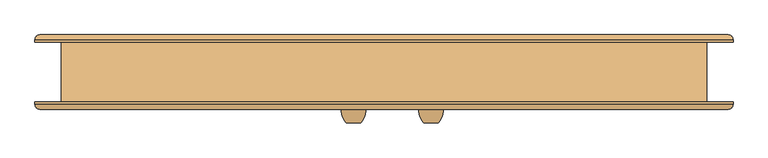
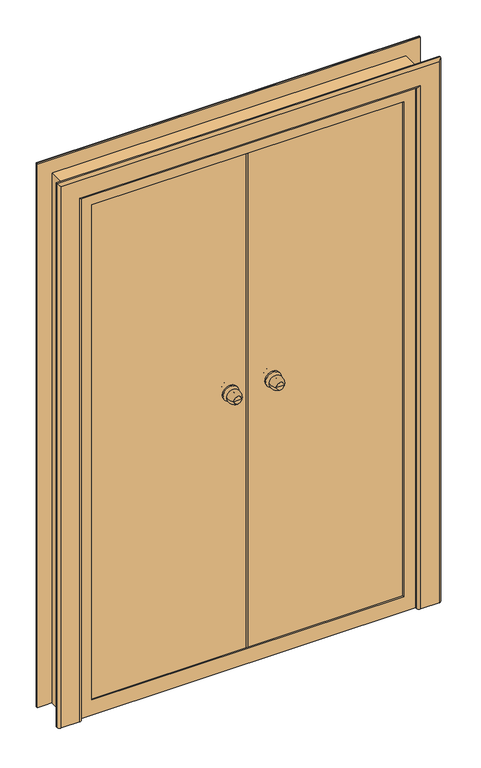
"""IFC4 building model written with IfcOpenShell, lengths in millimetres: door geometry, Наружная дверь 2-Навесная - Один проем наружу с порогом - 31173-2003 : ДСН ДКН М2 2100-1300 ГОСТ 31173-2003."""

import ifcopenshell
import ifcopenshell.guid

model = None  # the IFC model being written
_history = None  # IfcOwnerHistory: only IFC2X3 demands one
_inside = {}  # id of a spatial element -> (the spatial element, [elements in it])
_under = {}  # id of a project, library or spatial element -> (it, [spatial elements below it])
_declared = {}  # id of a project -> (the project, [libraries it declares])
_typed = {}  # id of a type object -> (the type object, [elements of that type])
_made_of = {}  # id of a material, layer set ... -> (it, [elements and type objects made of it])


def new_model(schema):
    """Start an empty IFC model of exactly this schema.

    Asked for "IFC4X3", IfcOpenShell would pick the latest addendum, in which some entities
    have other attributes; the version numbers below select the first issue.
    IFC2X3 requires an IfcOwnerHistory on every rooted entity: one is made here for all.
    """
    global model, _history
    if schema == "IFC4X3":
        model = ifcopenshell.file(schema_version=(4, 3, 0, 0))
    else:
        model = ifcopenshell.file(schema=schema)
    _inside.clear()
    _under.clear()
    _declared.clear()
    _typed.clear()
    _made_of.clear()
    _history = None
    if model.schema == "IFC2X3":
        org = make("IfcOrganization", Name="unknown")
        user = make(
            "IfcPersonAndOrganization",
            ThePerson=make("IfcPerson", FamilyName="unknown"),
            TheOrganization=org,
        )
        app = make(
            "IfcApplication",
            ApplicationDeveloper=org,
            Version="unknown",
            ApplicationFullName="unknown",
            ApplicationIdentifier="unknown",
        )
        _history = make(
            "IfcOwnerHistory",
            OwningUser=user,
            OwningApplication=app,
            ChangeAction="ADDED",
            CreationDate=0,
        )
    return model


def make(cls, **values):
    """One entity of the class cls with the attributes given. An attribute that is None is left unset."""
    return model.create_entity(
        cls, **{name: value for name, value in values.items() if value is not None}
    )


def rooted(cls, **values):
    """An entity with a GlobalId (a new one), such as an element, a storey or a relation."""
    return make(cls, GlobalId=ifcopenshell.guid.new(), OwnerHistory=_history, **values)


def si_unit(unit_type, name, prefix=None):
    """IfcSIUnit, for example si_unit("LENGTHUNIT", "METRE", prefix="MILLI")."""
    return make("IfcSIUnit", UnitType=unit_type, Prefix=prefix, Name=name)


def assignment(units):
    """IfcUnitAssignment: the units of a project."""
    return None if units is None else make("IfcUnitAssignment", Units=units)


def point(xyz):
    """IfcCartesianPoint."""
    return None if xyz is None else make("IfcCartesianPoint", Coordinates=xyz)


def direction(xyz):
    """IfcDirection."""
    return None if xyz is None else make("IfcDirection", DirectionRatios=xyz)


def frame(location, z_axis=None, x_axis=None):
    """IfcAxis2Placement3D, a coordinate frame: its origin and axes. An axis left out is left unset."""
    return make(
        "IfcAxis2Placement3D",
        Location=point(location),
        Axis=direction(z_axis),
        RefDirection=direction(x_axis),
    )


def origin():
    """The frame at (0, 0, 0) with its axes left unset."""
    return frame((0.0, 0.0, 0.0))


def place(relative_to, where):
    """IfcLocalPlacement: puts the frame where relative to a parent placement (None: the world)."""
    return make(
        "IfcLocalPlacement", PlacementRelTo=relative_to, RelativePlacement=where
    )


def context(
    kind, dimensions, precision=None, world=None, true_north=None, identifier=None
):
    """IfcGeometricRepresentationContext, for example the 3D "Model" context."""
    return make(
        "IfcGeometricRepresentationContext",
        ContextIdentifier=identifier,
        ContextType=kind,
        CoordinateSpaceDimension=dimensions,
        Precision=precision,
        WorldCoordinateSystem=world,
        TrueNorth=true_north,
    )


def project(units=None, contexts=None):
    """IfcProject with its units and contexts."""
    return rooted(
        "IfcProject",
        Name="project",
        RepresentationContexts=contexts,
        UnitsInContext=assignment(units),
    )


def spatial(cls, under=None, at=None, **own):
    """A site, building, storey or space (cls), placed at a placement, below another one or the project."""
    s = rooted(cls, ObjectPlacement=at, **own)
    if under is not None:
        _under.setdefault(under.id(), (under, []))[1].append(s)
    return s


def polyline(points):
    """IfcPolyline through the points."""
    return make("IfcPolyline", Points=[point(p) for p in points])


def circle_curve(where, radius):
    """IfcCircle in the frame where."""
    return make("IfcCircle", Position=where, Radius=radius)


def ellipse_curve(where, semi_axis1, semi_axis2):
    """IfcEllipse in the frame where."""
    return make(
        "IfcEllipse", Position=where, SemiAxis1=semi_axis1, SemiAxis2=semi_axis2
    )


def trimmed(basis, trim1, trim2, sense, master):
    """IfcTrimmedCurve: the piece of a basis curve between two trims."""
    return make(
        "IfcTrimmedCurve",
        BasisCurve=basis,
        Trim1=trim1,
        Trim2=trim2,
        SenseAgreement=sense,
        MasterRepresentation=master,
    )


def outline(outer, holes=None, kind="AREA"):
    """IfcArbitraryClosedProfileDef: a profile drawn as a closed curve; with holes, ...WithVoids."""
    if holes is None:
        return make("IfcArbitraryClosedProfileDef", ProfileType=kind, OuterCurve=outer)
    return make(
        "IfcArbitraryProfileDefWithVoids",
        ProfileType=kind,
        OuterCurve=outer,
        InnerCurves=holes,
    )


def extrude(swept, where, along, depth):
    """IfcExtrudedAreaSolid: the profile swept, set in the frame where, extruded along a direction by depth."""
    return make(
        "IfcExtrudedAreaSolid",
        SweptArea=swept,
        Position=where,
        ExtrudedDirection=direction(along),
        Depth=depth,
    )


def faces_of(points, faces, orient=None, outer=None):
    """IfcFace entities. A face is a list of loops; a loop is a list of indices into points, from 0.

    orient and outer hold one flag for each loop. By default every Orientation is true, the
    first loop of a face is its IfcFaceOuterBound and the others are IfcFaceBound.
    """
    made = []
    for i, loops in enumerate(faces):
        bounds = []
        for j, loop in enumerate(loops):
            is_outer = j == 0 if outer is None else outer[i][j]
            bounds.append(
                make(
                    "IfcFaceOuterBound" if is_outer else "IfcFaceBound",
                    Bound=make("IfcPolyLoop", Polygon=[points[k] for k in loop]),
                    Orientation=True if orient is None else orient[i][j],
                )
            )
        made.append(make("IfcFace", Bounds=bounds))
    return made


def faceted_brep(points, faces, orient=None, outer=None, voids=None):
    """IfcFacetedBrep: a solid bounded by flat faces; with voids (closed shells), ...WithVoids."""
    shared = [point(p) for p in points]
    hull = make("IfcClosedShell", CfsFaces=faces_of(shared, faces, orient, outer))
    if voids is None:
        return make("IfcFacetedBrep", Outer=hull)
    return make(
        "IfcFacetedBrepWithVoids",
        Outer=hull,
        Voids=[
            make(cls, CfsFaces=faces_of(shared, fs, o, b)) for cls, fs, o, b in voids
        ],
    )


def shape(context_of_items, identifier, shape_type, items):
    """IfcShapeRepresentation: the items that make up one representation, for example the "Body"."""
    return make(
        "IfcShapeRepresentation",
        ContextOfItems=context_of_items,
        RepresentationIdentifier=identifier,
        RepresentationType=shape_type,
        Items=items,
    )


def source(mapping_origin, context_of_items, identifier, shape_type, items):
    """IfcRepresentationMap: a shape defined once, which mapped items show again and again."""
    return make(
        "IfcRepresentationMap",
        MappingOrigin=mapping_origin,
        MappedRepresentation=shape(context_of_items, identifier, shape_type, items),
    )


def transform(
    local_origin,
    x_axis=None,
    y_axis=None,
    z_axis=None,
    scale=None,
    scale2=None,
    scale3=None,
    uniform=True,
):
    """IfcCartesianTransformationOperator3D, or its non-uniform kind. x_axis, y_axis, z_axis: its Axis1, 2, 3."""
    if uniform:
        return make(
            "IfcCartesianTransformationOperator3D",
            Axis1=direction(x_axis),
            Axis2=direction(y_axis),
            LocalOrigin=point(local_origin),
            Scale=scale,
            Axis3=direction(z_axis),
        )
    return make(
        "IfcCartesianTransformationOperator3DnonUniform",
        Axis1=direction(x_axis),
        Axis2=direction(y_axis),
        LocalOrigin=point(local_origin),
        Scale=scale,
        Axis3=direction(z_axis),
        Scale2=scale2,
        Scale3=scale3,
    )


def mapped(mapping_source, mapping_target):
    """IfcMappedItem: shows the shape of a source again, moved by a transform."""
    return make(
        "IfcMappedItem", MappingSource=mapping_source, MappingTarget=mapping_target
    )


def made_of(thing, what):
    """Note that an element or type object is made of a material, layer set ...; save() writes the relation."""
    if what is not None:
        _made_of.setdefault(what.id(), (what, []))[1].append(thing)
    return thing


def element(
    cls,
    number,
    at=None,
    inside=None,
    cuts=None,
    type_object=None,
    material=None,
    context=None,
    identifier="Body",
    shape_type=None,
    held_by="IfcProductDefinitionShape",
    body=None,
    shapes=None,
    **own,
):
    """One element of the class cls, such as IfcWall. Its Tag is "e" and its number.

    at: its placement. inside: the storey or other place that contains it. cuts: it is an
    opening in that element (IfcRelVoidsElement). A single representation is given by context,
    identifier, shape_type and body (its items); several are given by shapes. held_by: the class
    of the entity that holds the representations. save() writes the other relations.
    """
    e = rooted(cls, Tag="e%d" % number, ObjectPlacement=at, **own)
    if body is not None:
        shapes = [shape(context, identifier, shape_type, body)]
    if shapes is not None:
        e.Representation = make(held_by, Representations=shapes)
    if inside is not None:
        _inside.setdefault(inside.id(), (inside, []))[1].append(e)
    if cuts is not None:
        rooted(
            "IfcRelVoidsElement", RelatingBuildingElement=cuts, RelatedOpeningElement=e
        )
    if type_object is not None:
        _typed.setdefault(type_object.id(), (type_object, []))[1].append(e)
    return made_of(e, material)


def aggregate(whole, parts):
    """IfcRelAggregates: a whole, such as a stair, and the parts it consists of."""
    return rooted("IfcRelAggregates", RelatingObject=whole, RelatedObjects=parts)


def save(model, path):
    """Write the relations noted so far, then the file.

    IfcRelAggregates (storeys below a building ...), IfcRelContainedInSpatialStructure (elements
    in a storey), IfcRelDefinesByType, IfcRelAssociatesMaterial and IfcRelDeclares: one each for
    every whole, place, type object, material and project.
    """
    for whole, parts in _under.values():
        aggregate(whole, parts)
    for where, things in _inside.values():
        rooted(
            "IfcRelContainedInSpatialStructure",
            RelatedElements=things,
            RelatingStructure=where,
        )
    for kind, things in _typed.values():
        rooted("IfcRelDefinesByType", RelatedObjects=things, RelatingType=kind)
    for what, things in _made_of.values():
        rooted("IfcRelAssociatesMaterial", RelatedObjects=things, RelatingMaterial=what)
    for by, libraries in _declared.values():
        rooted("IfcRelDeclares", RelatingContext=by, RelatedDefinitions=libraries)
    model.write(path)


def plane_surface(at):
    """IfcPlane: the flat surface through the origin of the frame at, square to its z axis."""
    return make("IfcPlane", Position=at)


def cylinder_surface(at, radius):
    """IfcCylindricalSurface: all points at the distance radius from the z axis of the frame at."""
    return make("IfcCylindricalSurface", Position=at, Radius=radius)


def revolved_surface(curve, axis_point, axis_direction):
    """IfcSurfaceOfRevolution: the curve turned about the line through axis_point along axis_direction."""
    return make(
        "IfcSurfaceOfRevolution",
        SweptCurve=make("IfcArbitraryOpenProfileDef", ProfileType="CURVE", Curve=curve),
        AxisPosition=make("IfcAxis1Placement", Location=point(axis_point), Axis=direction(axis_direction)),
    )


def advanced_brep(points, edges, surfaces, faces):
    """IfcAdvancedBrep: a solid bounded by faces that lie on surfaces and meet in shared edges.

    An edge is (start, end): straight between two places in points (the first is 0);
    or (start, end, curve); or (start, end, curve, False) where it runs against its curve.
    A face is (place in surfaces, loops), or (place, loops, False) where it looks against
    its surface's normal. A loop lists edges by number (the first is 1), with a minus sign
    where the edge is run from its end to its start. The first loop is the outer one.
    """
    corners = [point(p) for p in points]
    vertices = [make("IfcVertexPoint", VertexGeometry=c) for c in corners]
    made = []
    for start, end, *more in edges:
        made.append(
            make(
                "IfcEdgeCurve",
                EdgeStart=vertices[start],
                EdgeEnd=vertices[end],
                EdgeGeometry=more[0] if more else make("IfcPolyline", Points=[corners[start], corners[end]]),
                SameSense=more[1] if len(more) > 1 else True,
            )
        )
    hull = []
    for where, loops, *sense in faces:
        bounds = []
        for j, loop in enumerate(loops):
            ring = [make("IfcOrientedEdge", EdgeElement=made[abs(k) - 1], Orientation=k > 0) for k in loop]
            bounds.append(
                make(
                    "IfcFaceOuterBound" if j == 0 else "IfcFaceBound",
                    Bound=make("IfcEdgeLoop", EdgeList=ring),
                    Orientation=True,
                )
            )
        hull.append(make("IfcAdvancedFace", Bounds=bounds, FaceSurface=surfaces[where], SameSense=sense[0] if sense else True))
    return make("IfcAdvancedBrep", Outer=make("IfcClosedShell", CfsFaces=hull))


def door_6cda5d05(model_context):
    return source(origin(), model_context, "Body", "SolidModel", [
        advanced_brep(
        [(113.0, -105.5, 1100.0), (83.0, -105.5, 1100.0), (98.0, -105.5, 1100.0), (123.0, -75.5, 1100.0), (73.0, -75.5, 1100.0), (116.0, -75.5, 1100.0), (80.0, -75.5, 1100.0), (108.0, -67.5, 1100.0), (88.0, -67.5, 1100.0), (108.0, -61.5, 1100.0), (88.0, -61.5, 1100.0), (68.0, -61.5, 1100.0), (128.0, -61.5, 1100.0), (68.0, -55.5, 1100.0), (128.0, -55.5, 1100.0)],
        [
            (0, 1, circle_curve(frame((98.0, -105.5, 1100.0), z_axis=(0.0, -1.0, 0.0), x_axis=(-1.0, 0.0, 0.0)), 15.0)),
            (1, 2),
            (2, 0),
            (1, 0, circle_curve(frame((98.0, -105.5, 1100.0), z_axis=(0.0, -1.0, 0.0), x_axis=(-1.0, 0.0, 0.0)), 15.0)),
            (0, 3, circle_curve(frame((88.3773735, -80.6257912, 1100.0), z_axis=(0.0, 0.0, 1.0), x_axis=(-1.0, 0.0, 0.0)), 35.0)),
            (3, 4, circle_curve(frame((98.0, -75.5, 1100.0), z_axis=(0.0, -1.0, 0.0), x_axis=(-1.0, 0.0, 0.0)), 25.0)),
            (4, 1, circle_curve(frame((107.6226265, -80.6257912, 1100.0), z_axis=(0.0, 0.0, 1.0), x_axis=(1.0, 0.0, 0.0)), 35.0)),
            (4, 3, circle_curve(frame((98.0, -75.5, 1100.0), z_axis=(0.0, -1.0, 0.0), x_axis=(-1.0, 0.0, 0.0)), 25.0)),
            (3, 5),
            (5, 6, circle_curve(frame((98.0, -75.5, 1100.0), z_axis=(0.0, -1.0, 0.0), x_axis=(-1.0, 0.0, 0.0)), 18.0)),
            (6, 4),
            (6, 5, circle_curve(frame((98.0, -75.5, 1100.0), z_axis=(0.0, -1.0, 0.0), x_axis=(-1.0, 0.0, 0.0)), 18.0)),
            (5, 7, circle_curve(frame((116.0, -67.5, 1100.0), z_axis=(0.0, 0.0, -1.0), x_axis=(-1.0, 0.0, 0.0)), 8.0)),
            (7, 8, circle_curve(frame((98.0, -67.5, 1100.0), z_axis=(0.0, -1.0, 0.0), x_axis=(-1.0, 0.0, 0.0)), 10.0)),
            (8, 6, circle_curve(frame((80.0, -67.5, 1100.0), z_axis=(0.0, 0.0, -1.0), x_axis=(1.0, 0.0, 0.0)), 8.0)),
            (8, 7, circle_curve(frame((98.0, -67.5, 1100.0), z_axis=(0.0, -1.0, 0.0), x_axis=(-1.0, 0.0, 0.0)), 10.0)),
            (7, 9),
            (9, 10, circle_curve(frame((98.0, -61.5, 1100.0), z_axis=(0.0, -1.0, 0.0), x_axis=(-1.0, 0.0, 0.0)), 10.0)),
            (10, 8),
            (10, 9, circle_curve(frame((98.0, -61.5, 1100.0), z_axis=(0.0, -1.0, 0.0), x_axis=(-1.0, 0.0, 0.0)), 10.0)),
            (11, 12, circle_curve(frame((98.0, -61.5, 1100.0), z_axis=(0.0, -1.0, 0.0), x_axis=(1.0, 0.0, 0.0)), 30.0)),
            (12, 11, circle_curve(frame((98.0, -61.5, 1100.0), z_axis=(0.0, -1.0, 0.0), x_axis=(1.0, 0.0, 0.0)), 30.0)),
            (13, 14, circle_curve(frame((98.0, -55.5, 1100.0), z_axis=(0.0, 1.0, 0.0), x_axis=(1.0, 0.0, 0.0)), 30.0)),
            (14, 13, circle_curve(frame((98.0, -55.5, 1100.0), z_axis=(0.0, 1.0, 0.0), x_axis=(1.0, 0.0, 0.0)), 30.0)),
            (11, 13),
            (14, 12),
        ],
        [
            plane_surface(frame((98.0, -105.5, 1100.0), z_axis=(0.0, -1.0, 0.0), x_axis=(-1.0, 0.0, 0.0))),
            revolved_surface(trimmed(ellipse_curve(frame((107.6226265, -80.6257912, 1100.0), z_axis=(0.0, 0.0, -1.0), x_axis=(1.0, 0.0, 0.0)), 35.0, 35.0), [point((83.0, -105.5, 1100.0))], [point((73.0, -75.5, 1100.0))], True, "CARTESIAN"), (98.0, -135.5, 1100.0), (0.0, 1.0, 0.0)),
            plane_surface(frame((98.0, -75.5, 1100.0), z_axis=(0.0, 1.0, 0.0), x_axis=(-1.0, 0.0, 0.0))),
            revolved_surface(trimmed(ellipse_curve(frame((80.0, -67.5, 1100.0), z_axis=(0.0, 0.0, 1.0), x_axis=(1.0, 0.0, 0.0)), 8.0, 8.0), [point((80.0, -75.5, 1100.0))], [point((88.0, -67.5, 1100.0))], True, "CARTESIAN"), (98.0, -135.5, 1100.0), (0.0, 1.0, 0.0)),
            cylinder_surface(frame((98.0, -135.5, 1100.0), z_axis=(0.0, 1.0, 0.0), x_axis=(-1.0, 0.0, 0.0)), 10.0),
            plane_surface(frame((128.0, -61.5, 1100.0), z_axis=(0.0, -1.0, 0.0), x_axis=(0.0, 0.0, 1.0))),
            plane_surface(frame((128.0, -55.5, 1100.0), z_axis=(0.0, 1.0, 0.0), x_axis=(0.0, 0.0, -1.0))),
            cylinder_surface(frame((98.0, -55.5, 1100.0), z_axis=(0.0, -1.0, 0.0), x_axis=(1.0, 0.0, 0.0)), 30.0),
        ],
        [
            (0, [[1, 2, 3]]),
            (0, [[-2, 4, -3]]),
            (1, [[-1, 5, 6, 7]]),
            (1, [[-4, -7, 8, -5]]),
            (2, [[-6, 9, 10, 11]]),
            (2, [[-8, -11, 12, -9]]),
            (3, [[-10, 13, 14, 15]]),
            (3, [[-12, -15, 16, -13]]),
            (4, [[-14, 17, 18, 19]]),
            (4, [[-16, -19, 20, -17]]),
            (5, [[21, 22], [-18, -20]]),
            (6, [[23, 24]]),
            (7, [[-21, 25, -24, 26]]),
            (7, [[-22, -26, -23, -25]]),
        ],
    ),
        advanced_brep(
        [(83.0, 34.5, 1100.0), (113.0, 34.5, 1100.0), (98.0, 34.5, 1100.0), (73.0, 4.5, 1100.0), (123.0, 4.5, 1100.0), (80.0, 4.5, 1100.0), (116.0, 4.5, 1100.0), (88.0, -3.5, 1100.0), (108.0, -3.5, 1100.0), (88.0, -9.5, 1100.0), (108.0, -9.5, 1100.0), (128.0, -9.5, 1100.0), (68.0, -9.5, 1100.0), (128.0, -15.5, 1100.0), (68.0, -15.5, 1100.0)],
        [
            (0, 1, circle_curve(frame((98.0, 34.5, 1100.0), z_axis=(0.0, 1.0, 0.0), x_axis=(1.0, 0.0, 0.0)), 15.0)),
            (1, 2),
            (2, 0),
            (1, 0, circle_curve(frame((98.0, 34.5, 1100.0), z_axis=(0.0, 1.0, 0.0), x_axis=(1.0, 0.0, 0.0)), 15.0)),
            (0, 3, circle_curve(frame((107.6226265, 9.6257912, 1100.0), z_axis=(0.0, 0.0, 1.0), x_axis=(1.0, 0.0, 0.0)), 35.0)),
            (3, 4, circle_curve(frame((98.0, 4.5, 1100.0), z_axis=(0.0, 1.0, 0.0), x_axis=(1.0, 0.0, 0.0)), 25.0)),
            (4, 1, circle_curve(frame((88.3773735, 9.6257912, 1100.0), z_axis=(0.0, 0.0, 1.0), x_axis=(-1.0, 0.0, 0.0)), 35.0)),
            (4, 3, circle_curve(frame((98.0, 4.5, 1100.0), z_axis=(0.0, 1.0, 0.0), x_axis=(1.0, 0.0, 0.0)), 25.0)),
            (3, 5),
            (5, 6, circle_curve(frame((98.0, 4.5, 1100.0), z_axis=(0.0, 1.0, 0.0), x_axis=(1.0, 0.0, 0.0)), 18.0)),
            (6, 4),
            (6, 5, circle_curve(frame((98.0, 4.5, 1100.0), z_axis=(0.0, 1.0, 0.0), x_axis=(1.0, 0.0, 0.0)), 18.0)),
            (5, 7, circle_curve(frame((80.0, -3.5, 1100.0), z_axis=(0.0, 0.0, -1.0), x_axis=(1.0, 0.0, 0.0)), 8.0)),
            (7, 8, circle_curve(frame((98.0, -3.5, 1100.0), z_axis=(0.0, 1.0, 0.0), x_axis=(1.0, 0.0, 0.0)), 10.0)),
            (8, 6, circle_curve(frame((116.0, -3.5, 1100.0), z_axis=(0.0, 0.0, -1.0), x_axis=(-1.0, 0.0, 0.0)), 8.0)),
            (8, 7, circle_curve(frame((98.0, -3.5, 1100.0), z_axis=(0.0, 1.0, 0.0), x_axis=(1.0, 0.0, 0.0)), 10.0)),
            (7, 9),
            (9, 10, circle_curve(frame((98.0, -9.5, 1100.0), z_axis=(0.0, 1.0, 0.0), x_axis=(1.0, 0.0, 0.0)), 10.0)),
            (10, 8),
            (10, 9, circle_curve(frame((98.0, -9.5, 1100.0), z_axis=(0.0, 1.0, 0.0), x_axis=(1.0, 0.0, 0.0)), 10.0)),
            (11, 12, circle_curve(frame((98.0, -9.5, 1100.0), z_axis=(0.0, 1.0, 0.0), x_axis=(-1.0, 0.0, 0.0)), 30.0)),
            (12, 11, circle_curve(frame((98.0, -9.5, 1100.0), z_axis=(0.0, 1.0, 0.0), x_axis=(-1.0, 0.0, 0.0)), 30.0)),
            (13, 14, circle_curve(frame((98.0, -15.5, 1100.0), z_axis=(0.0, -1.0, 0.0), x_axis=(-1.0, 0.0, 0.0)), 30.0)),
            (14, 13, circle_curve(frame((98.0, -15.5, 1100.0), z_axis=(0.0, -1.0, 0.0), x_axis=(-1.0, 0.0, 0.0)), 30.0)),
            (11, 13),
            (14, 12),
        ],
        [
            plane_surface(frame((98.0, 34.5, 1100.0), z_axis=(0.0, 1.0, 0.0), x_axis=(1.0, 0.0, 0.0))),
            revolved_surface(trimmed(ellipse_curve(frame((88.3773735, 9.6257912, 1100.0), z_axis=(0.0, 0.0, -1.0), x_axis=(-1.0, 0.0, 0.0)), 35.0, 35.0), [point((113.0, 34.5, 1100.0))], [point((123.0, 4.5, 1100.0))], True, "CARTESIAN"), (98.0, 64.5, 1100.0), (0.0, -1.0, 0.0)),
            plane_surface(frame((98.0, 4.5, 1100.0), z_axis=(0.0, -1.0, 0.0), x_axis=(1.0, 0.0, 0.0))),
            revolved_surface(trimmed(ellipse_curve(frame((116.0, -3.5, 1100.0), z_axis=(0.0, 0.0, 1.0), x_axis=(-1.0, 0.0, 0.0)), 8.0, 8.0), [point((116.0, 4.5, 1100.0))], [point((108.0, -3.5, 1100.0))], True, "CARTESIAN"), (98.0, 64.5, 1100.0), (0.0, -1.0, 0.0)),
            cylinder_surface(frame((98.0, 64.5, 1100.0), z_axis=(0.0, -1.0, 0.0), x_axis=(1.0, 0.0, 0.0)), 10.0),
            plane_surface(frame((68.0, -9.5, 1100.0), z_axis=(0.0, 1.0, 0.0), x_axis=(0.0, 0.0, 1.0))),
            plane_surface(frame((68.0, -15.5, 1100.0), z_axis=(0.0, -1.0, 0.0), x_axis=(0.0, 0.0, -1.0))),
            cylinder_surface(frame((98.0, -15.5, 1100.0), z_axis=(0.0, 1.0, 0.0), x_axis=(-1.0, 0.0, 0.0)), 30.0),
        ],
        [
            (0, [[1, 2, 3]]),
            (0, [[-2, 4, -3]]),
            (1, [[-1, 5, 6, 7]]),
            (1, [[-4, -7, 8, -5]]),
            (2, [[-6, 9, 10, 11]]),
            (2, [[-8, -11, 12, -9]]),
            (3, [[-10, 13, 14, 15]]),
            (3, [[-12, -15, 16, -13]]),
            (4, [[-14, 17, 18, 19]]),
            (4, [[-16, -19, 20, -17]]),
            (5, [[21, 22], [-18, -20]]),
            (6, [[23, 24]]),
            (7, [[-21, 25, -24, 26]]),
            (7, [[-22, -26, -23, -25]]),
        ],
    ),
        advanced_brep(
        [(-48.0, -105.5, 1100.0), (-78.0, -105.5, 1100.0), (-63.0, -105.5, 1100.0), (-38.0, -75.5, 1100.0), (-88.0, -75.5, 1100.0), (-45.0, -75.5, 1100.0), (-81.0, -75.5, 1100.0), (-53.0, -67.5, 1100.0), (-73.0, -67.5, 1100.0), (-53.0, -61.5, 1100.0), (-73.0, -61.5, 1100.0), (-93.0, -61.5, 1100.0), (-33.0, -61.5, 1100.0), (-93.0, -55.5, 1100.0), (-33.0, -55.5, 1100.0)],
        [
            (0, 1, circle_curve(frame((-63.0, -105.5, 1100.0), z_axis=(0.0, -1.0, 0.0), x_axis=(-1.0, 0.0, 0.0)), 15.0)),
            (1, 2),
            (2, 0),
            (1, 0, circle_curve(frame((-63.0, -105.5, 1100.0), z_axis=(0.0, -1.0, 0.0), x_axis=(-1.0, 0.0, 0.0)), 15.0)),
            (0, 3, circle_curve(frame((-72.6226265, -80.6257912, 1100.0), z_axis=(0.0, 0.0, 1.0), x_axis=(-1.0, 0.0, 0.0)), 35.0)),
            (3, 4, circle_curve(frame((-63.0, -75.5, 1100.0), z_axis=(0.0, -1.0, 0.0), x_axis=(-1.0, 0.0, 0.0)), 25.0)),
            (4, 1, circle_curve(frame((-53.3773735, -80.6257912, 1100.0), z_axis=(0.0, 0.0, 1.0), x_axis=(1.0, 0.0, 0.0)), 35.0)),
            (4, 3, circle_curve(frame((-63.0, -75.5, 1100.0), z_axis=(0.0, -1.0, 0.0), x_axis=(-1.0, 0.0, 0.0)), 25.0)),
            (3, 5),
            (5, 6, circle_curve(frame((-63.0, -75.5, 1100.0), z_axis=(0.0, -1.0, 0.0), x_axis=(-1.0, 0.0, 0.0)), 18.0)),
            (6, 4),
            (6, 5, circle_curve(frame((-63.0, -75.5, 1100.0), z_axis=(0.0, -1.0, 0.0), x_axis=(-1.0, 0.0, 0.0)), 18.0)),
            (5, 7, circle_curve(frame((-45.0, -67.5, 1100.0), z_axis=(0.0, 0.0, -1.0), x_axis=(-1.0, 0.0, 0.0)), 8.0)),
            (7, 8, circle_curve(frame((-63.0, -67.5, 1100.0), z_axis=(0.0, -1.0, 0.0), x_axis=(-1.0, 0.0, 0.0)), 10.0)),
            (8, 6, circle_curve(frame((-81.0, -67.5, 1100.0), z_axis=(0.0, 0.0, -1.0), x_axis=(1.0, 0.0, 0.0)), 8.0)),
            (8, 7, circle_curve(frame((-63.0, -67.5, 1100.0), z_axis=(0.0, -1.0, 0.0), x_axis=(-1.0, 0.0, 0.0)), 10.0)),
            (7, 9),
            (9, 10, circle_curve(frame((-63.0, -61.5, 1100.0), z_axis=(0.0, -1.0, 0.0), x_axis=(-1.0, 0.0, 0.0)), 10.0)),
            (10, 8),
            (10, 9, circle_curve(frame((-63.0, -61.5, 1100.0), z_axis=(0.0, -1.0, 0.0), x_axis=(-1.0, 0.0, 0.0)), 10.0)),
            (11, 12, circle_curve(frame((-63.0, -61.5, 1100.0), z_axis=(0.0, -1.0, 0.0), x_axis=(1.0, 0.0, 0.0)), 30.0)),
            (12, 11, circle_curve(frame((-63.0, -61.5, 1100.0), z_axis=(0.0, -1.0, 0.0), x_axis=(1.0, 0.0, 0.0)), 30.0)),
            (13, 14, circle_curve(frame((-63.0, -55.5, 1100.0), z_axis=(0.0, 1.0, 0.0), x_axis=(1.0, 0.0, 0.0)), 30.0)),
            (14, 13, circle_curve(frame((-63.0, -55.5, 1100.0), z_axis=(0.0, 1.0, 0.0), x_axis=(1.0, 0.0, 0.0)), 30.0)),
            (11, 13),
            (14, 12),
        ],
        [
            plane_surface(frame((-63.0, -105.5, 1100.0), z_axis=(0.0, -1.0, 0.0), x_axis=(-1.0, 0.0, 0.0))),
            revolved_surface(trimmed(ellipse_curve(frame((-53.3773735, -80.6257912, 1100.0), z_axis=(0.0, 0.0, -1.0), x_axis=(1.0, 0.0, 0.0)), 35.0, 35.0), [point((-78.0, -105.5, 1100.0))], [point((-88.0, -75.5, 1100.0))], True, "CARTESIAN"), (-63.0, -135.5, 1100.0), (0.0, 1.0, 0.0)),
            plane_surface(frame((-63.0, -75.5, 1100.0), z_axis=(0.0, 1.0, 0.0), x_axis=(-1.0, 0.0, 0.0))),
            revolved_surface(trimmed(ellipse_curve(frame((-81.0, -67.5, 1100.0), z_axis=(0.0, 0.0, 1.0), x_axis=(1.0, 0.0, 0.0)), 8.0, 8.0), [point((-81.0, -75.5, 1100.0))], [point((-73.0, -67.5, 1100.0))], True, "CARTESIAN"), (-63.0, -135.5, 1100.0), (0.0, 1.0, 0.0)),
            cylinder_surface(frame((-63.0, -135.5, 1100.0), z_axis=(0.0, 1.0, 0.0), x_axis=(-1.0, 0.0, 0.0)), 10.0),
            plane_surface(frame((-33.0, -61.5, 1100.0), z_axis=(0.0, -1.0, 0.0), x_axis=(0.0, 0.0, 1.0))),
            plane_surface(frame((-33.0, -55.5, 1100.0), z_axis=(0.0, 1.0, 0.0), x_axis=(0.0, 0.0, -1.0))),
            cylinder_surface(frame((-63.0, -55.5, 1100.0), z_axis=(0.0, -1.0, 0.0), x_axis=(1.0, 0.0, 0.0)), 30.0),
        ],
        [
            (0, [[1, 2, 3]]),
            (0, [[-2, 4, -3]]),
            (1, [[-1, 5, 6, 7]]),
            (1, [[-4, -7, 8, -5]]),
            (2, [[-6, 9, 10, 11]]),
            (2, [[-8, -11, 12, -9]]),
            (3, [[-10, 13, 14, 15]]),
            (3, [[-12, -15, 16, -13]]),
            (4, [[-14, 17, 18, 19]]),
            (4, [[-16, -19, 20, -17]]),
            (5, [[21, 22], [-18, -20]]),
            (6, [[23, 24]]),
            (7, [[-21, 25, -24, 26]]),
            (7, [[-22, -26, -23, -25]]),
        ],
    ),
        advanced_brep(
        [(-78.0, 34.5, 1100.0), (-48.0, 34.5, 1100.0), (-63.0, 34.5, 1100.0), (-88.0, 4.5, 1100.0), (-38.0, 4.5, 1100.0), (-81.0, 4.5, 1100.0), (-45.0, 4.5, 1100.0), (-73.0, -3.5, 1100.0), (-53.0, -3.5, 1100.0), (-73.0, -9.5, 1100.0), (-53.0, -9.5, 1100.0), (-33.0, -9.5, 1100.0), (-93.0, -9.5, 1100.0), (-33.0, -15.5, 1100.0), (-93.0, -15.5, 1100.0)],
        [
            (0, 1, circle_curve(frame((-63.0, 34.5, 1100.0), z_axis=(0.0, 1.0, 0.0), x_axis=(1.0, 0.0, 0.0)), 15.0)),
            (1, 2),
            (2, 0),
            (1, 0, circle_curve(frame((-63.0, 34.5, 1100.0), z_axis=(0.0, 1.0, 0.0), x_axis=(1.0, 0.0, 0.0)), 15.0)),
            (0, 3, circle_curve(frame((-53.3773735, 9.6257912, 1100.0), z_axis=(0.0, 0.0, 1.0), x_axis=(1.0, 0.0, 0.0)), 35.0)),
            (3, 4, circle_curve(frame((-63.0, 4.5, 1100.0), z_axis=(0.0, 1.0, 0.0), x_axis=(1.0, 0.0, 0.0)), 25.0)),
            (4, 1, circle_curve(frame((-72.6226265, 9.6257912, 1100.0), z_axis=(0.0, 0.0, 1.0), x_axis=(-1.0, 0.0, 0.0)), 35.0)),
            (4, 3, circle_curve(frame((-63.0, 4.5, 1100.0), z_axis=(0.0, 1.0, 0.0), x_axis=(1.0, 0.0, 0.0)), 25.0)),
            (3, 5),
            (5, 6, circle_curve(frame((-63.0, 4.5, 1100.0), z_axis=(0.0, 1.0, 0.0), x_axis=(1.0, 0.0, 0.0)), 18.0)),
            (6, 4),
            (6, 5, circle_curve(frame((-63.0, 4.5, 1100.0), z_axis=(0.0, 1.0, 0.0), x_axis=(1.0, 0.0, 0.0)), 18.0)),
            (5, 7, circle_curve(frame((-81.0, -3.5, 1100.0), z_axis=(0.0, 0.0, -1.0), x_axis=(1.0, 0.0, 0.0)), 8.0)),
            (7, 8, circle_curve(frame((-63.0, -3.5, 1100.0), z_axis=(0.0, 1.0, 0.0), x_axis=(1.0, 0.0, 0.0)), 10.0)),
            (8, 6, circle_curve(frame((-45.0, -3.5, 1100.0), z_axis=(0.0, 0.0, -1.0), x_axis=(-1.0, 0.0, 0.0)), 8.0)),
            (8, 7, circle_curve(frame((-63.0, -3.5, 1100.0), z_axis=(0.0, 1.0, 0.0), x_axis=(1.0, 0.0, 0.0)), 10.0)),
            (7, 9),
            (9, 10, circle_curve(frame((-63.0, -9.5, 1100.0), z_axis=(0.0, 1.0, 0.0), x_axis=(1.0, 0.0, 0.0)), 10.0)),
            (10, 8),
            (10, 9, circle_curve(frame((-63.0, -9.5, 1100.0), z_axis=(0.0, 1.0, 0.0), x_axis=(1.0, 0.0, 0.0)), 10.0)),
            (11, 12, circle_curve(frame((-63.0, -9.5, 1100.0), z_axis=(0.0, 1.0, 0.0), x_axis=(-1.0, 0.0, 0.0)), 30.0)),
            (12, 11, circle_curve(frame((-63.0, -9.5, 1100.0), z_axis=(0.0, 1.0, 0.0), x_axis=(-1.0, 0.0, 0.0)), 30.0)),
            (13, 14, circle_curve(frame((-63.0, -15.5, 1100.0), z_axis=(0.0, -1.0, 0.0), x_axis=(-1.0, 0.0, 0.0)), 30.0)),
            (14, 13, circle_curve(frame((-63.0, -15.5, 1100.0), z_axis=(0.0, -1.0, 0.0), x_axis=(-1.0, 0.0, 0.0)), 30.0)),
            (11, 13),
            (14, 12),
        ],
        [
            plane_surface(frame((-63.0, 34.5, 1100.0), z_axis=(0.0, 1.0, 0.0), x_axis=(1.0, 0.0, 0.0))),
            revolved_surface(trimmed(ellipse_curve(frame((-72.6226265, 9.6257912, 1100.0), z_axis=(0.0, 0.0, -1.0), x_axis=(-1.0, 0.0, 0.0)), 35.0, 35.0), [point((-48.0, 34.5, 1100.0))], [point((-38.0, 4.5, 1100.0))], True, "CARTESIAN"), (-63.0, 64.5, 1100.0), (0.0, -1.0, 0.0)),
            plane_surface(frame((-63.0, 4.5, 1100.0), z_axis=(0.0, -1.0, 0.0), x_axis=(1.0, 0.0, 0.0))),
            revolved_surface(trimmed(ellipse_curve(frame((-45.0, -3.5, 1100.0), z_axis=(0.0, 0.0, 1.0), x_axis=(-1.0, 0.0, 0.0)), 8.0, 8.0), [point((-45.0, 4.5, 1100.0))], [point((-53.0, -3.5, 1100.0))], True, "CARTESIAN"), (-63.0, 64.5, 1100.0), (0.0, -1.0, 0.0)),
            cylinder_surface(frame((-63.0, 64.5, 1100.0), z_axis=(0.0, -1.0, 0.0), x_axis=(1.0, 0.0, 0.0)), 10.0),
            plane_surface(frame((-93.0, -9.5, 1100.0), z_axis=(0.0, 1.0, 0.0), x_axis=(0.0, 0.0, 1.0))),
            plane_surface(frame((-93.0, -15.5, 1100.0), z_axis=(0.0, -1.0, 0.0), x_axis=(0.0, 0.0, -1.0))),
            cylinder_surface(frame((-63.0, -15.5, 1100.0), z_axis=(0.0, 1.0, 0.0), x_axis=(-1.0, 0.0, 0.0)), 30.0),
        ],
        [
            (0, [[1, 2, 3]]),
            (0, [[-2, 4, -3]]),
            (1, [[-1, 5, 6, 7]]),
            (1, [[-4, -7, 8, -5]]),
            (2, [[-6, 9, 10, 11]]),
            (2, [[-8, -11, 12, -9]]),
            (3, [[-10, 13, 14, 15]]),
            (3, [[-12, -15, 16, -13]]),
            (4, [[-14, 17, 18, 19]]),
            (4, [[-16, -19, 20, -17]]),
            (5, [[21, 22], [-18, -20]]),
            (6, [[23, 24]]),
            (7, [[-21, 25, -24, 26]]),
            (7, [[-22, -26, -23, -25]]),
        ],
    ),
        faceted_brep([(38.0, -15.5, 25.0), (625.0, -15.5, 25.0), (625.0, -20.5, 25.0), (38.0, -20.5, 25.0), (38.0, -15.5, 2075.0), (625.0, -15.5, 2075.0), (625.0, -20.5, 2075.0), (38.0, -20.5, 2075.0), (38.0, -20.5, 2055.0), (605.0, -20.5, 2055.0), (605.0, -20.5, 45.0), (38.0, -20.5, 45.0), (38.0, -36.5, 45.0), (38.0, -36.5, 2055.0), (605.0, -55.5, 2055.0), (605.0, -55.5, 45.0), (3.0, -55.5, 45.0), (3.0, -36.5, 45.0), (3.0, -55.5, 2055.0), (3.0, -36.5, 2055.0)], [[[0, 1, 2, 3]], [[4, 5, 1, 0]], [[5, 6, 2, 1]], [[6, 7, 8, 9, 10, 11, 3, 2]], [[4, 0, 3, 11, 12, 13, 8, 7]], [[9, 14, 15, 10]], [[11, 10, 15, 16, 17, 12]], [[14, 18, 16, 15]], [[18, 19, 17, 16]], [[19, 13, 12, 17]], [[9, 8, 13, 19, 18, 14]], [[6, 5, 4, 7]]]),
        faceted_brep([(32.0, -20.5, 25.0), (-625.0, -20.5, 25.0), (-625.0, -15.5, 25.0), (32.0, -15.5, 25.0), (32.0, -20.5, 45.0), (-605.0, -20.5, 45.0), (-605.0, -20.5, 2055.0), (32.0, -20.5, 2055.0), (32.0, -20.5, 2075.0), (-625.0, -20.5, 2075.0), (-625.0, -15.5, 2075.0), (32.0, -15.5, 2075.0), (32.0, -30.5, 2055.0), (32.0, -30.5, 45.0), (-3.0, -30.5, 45.0), (-3.0, -55.5, 45.0), (-605.0, -55.5, 45.0), (-605.0, -55.5, 2055.0), (-3.0, -55.5, 2055.0), (-3.0, -30.5, 2055.0)], [[[0, 1, 2, 3]], [[0, 4, 5, 6, 7, 8, 9, 1]], [[1, 9, 10, 2]], [[10, 11, 3, 2]], [[3, 11, 8, 7, 12, 13, 4, 0]], [[5, 4, 13, 14, 15, 16]], [[17, 6, 5, 16]], [[18, 17, 16, 15]], [[19, 18, 15, 14]], [[12, 19, 14, 13]], [[11, 10, 9, 8]], [[7, 6, 17, 18, 19, 12]]]),
        extrude(outline(polyline([(0.0, 635.0), (0.0, 650.0), (2100.0, 650.0), (2100.0, -650.0), (0.0, -650.0), (0.0, -635.0), (2085.0, -635.0), (2085.0, 635.0), (0.0, 635.0)])), frame((0.0, -22.5, 0.0), z_axis=(0.0, 1.0, 0.0), x_axis=(0.0, 0.0, 1.0)), (0.0, 0.0, 1.0), 85.0),
        faceted_brep([(650.0, -22.5, 0.0), (650.0, -62.5, 0.0), (-650.0, -62.5, 0.0), (-650.0, -22.5, 0.0), (-650.0, -62.5, 2100.0), (-650.0, -22.5, 2100.0), (650.0, -62.5, 2100.0), (-590.0, -62.5, 2040.0), (590.0, -62.5, 2040.0), (590.0, -62.5, 60.0), (-590.0, -62.5, 60.0), (650.0, -22.5, 2100.0), (-610.0, -22.5, 40.0), (610.0, -22.5, 40.0), (610.0, -22.5, 2060.0), (-610.0, -22.5, 2060.0), (610.0, -57.5, 40.0), (-610.0, -57.5, 40.0), (-610.0, -57.5, 2060.0), (610.0, -57.5, 2060.0), (-590.0, -57.5, 60.0), (590.0, -57.5, 60.0), (590.0, -57.5, 2040.0), (-590.0, -57.5, 2040.0)], [[[0, 1, 2, 3]], [[3, 2, 4, 5]], [[2, 1, 6, 4], [7, 8, 9, 10]], [[5, 11, 0, 3], [12, 13, 14, 15]], [[16, 13, 12, 17]], [[17, 12, 15, 18]], [[18, 19, 16, 17], [20, 21, 22, 23]], [[9, 21, 20, 10]], [[10, 20, 23, 7]], [[11, 6, 1, 0]], [[19, 14, 13, 16]], [[8, 22, 21, 9]], [[5, 4, 6, 11]], [[18, 15, 14, 19]], [[7, 23, 22, 8]]]),
        advanced_brep(
        [(-725.0, -62.5, 0.0), (-635.0, -62.5, 0.0), (-635.0, -67.5, 0.0), (-645.0, -77.5, 0.0), (-715.0, -77.5, 0.0), (-725.0, -67.5, 0.0), (-725.0, -62.5, 2175.0), (725.0, -62.5, 2175.0), (725.0, -62.5, 0.0), (635.0, -62.5, 0.0), (635.0, -62.5, 2085.0), (-635.0, -62.5, 2085.0), (-635.0, -67.5, 2085.0), (-645.0, -77.5, 2095.0), (645.0, -77.5, 2095.0), (645.0, -77.5, 0.0), (715.0, -77.5, 0.0), (715.0, -77.5, 2165.0), (-715.0, -77.5, 2165.0), (-725.0, -67.5, 2175.0), (725.0, -67.5, 2175.0), (725.0, -67.5, 0.0), (635.0, -67.5, 0.0), (635.0, -67.5, 2085.0)],
        [
            (0, 1),
            (1, 2),
            (2, 3, circle_curve(frame((-645.0, -67.5, 0.0), z_axis=(0.0, 0.0, -1.0), x_axis=(-1.0, 0.0, 0.0)), 10.0)),
            (3, 4),
            (4, 5, circle_curve(frame((-715.0, -67.5, 0.0), z_axis=(0.0, 0.0, -1.0), x_axis=(-1.0, 0.0, 0.0)), 10.0)),
            (5, 0),
            (0, 6),
            (6, 7),
            (7, 8),
            (8, 9),
            (9, 10),
            (10, 11),
            (11, 1),
            (11, 12),
            (12, 2),
            (12, 13, ellipse_curve(frame((-645.0, -67.5, 2095.0), z_axis=(-0.7071067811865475, 0.0, -0.7071067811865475), x_axis=(0.7071067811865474, 0.0, -0.7071067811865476)), 14.1421356, 10.0)),
            (13, 3),
            (13, 14),
            (14, 15),
            (15, 16),
            (16, 17),
            (17, 18),
            (18, 4),
            (18, 19, ellipse_curve(frame((-715.0, -67.5, 2165.0), z_axis=(-0.7071067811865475, 0.0, -0.7071067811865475), x_axis=(0.7071067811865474, 0.0, -0.7071067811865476)), 14.1421356, 10.0)),
            (19, 5),
            (19, 6),
            (7, 20),
            (20, 21),
            (21, 8),
            (21, 16, circle_curve(frame((715.0, -67.5, 0.0), z_axis=(0.0, 0.0, -1.0), x_axis=(1.0, 0.0, 0.0)), 10.0)),
            (15, 22, circle_curve(frame((645.0, -67.5, 0.0), z_axis=(0.0, 0.0, -1.0), x_axis=(1.0, 0.0, 0.0)), 10.0)),
            (22, 9),
            (23, 10),
            (22, 23),
            (14, 23, ellipse_curve(frame((645.0, -67.5, 2095.0), z_axis=(0.7071067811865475, 0.0, -0.7071067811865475), x_axis=(0.7071067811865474, 0.0, 0.7071067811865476)), 14.1421356, 10.0)),
            (20, 17, ellipse_curve(frame((715.0, -67.5, 2165.0), z_axis=(0.7071067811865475, 0.0, -0.7071067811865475), x_axis=(0.7071067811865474, 0.0, 0.7071067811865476)), 14.1421356, 10.0)),
            (23, 12),
            (20, 19),
        ],
        [
            plane_surface(frame((-670.0, -62.5, 0.0), z_axis=(0.0, 0.0, -1.0), x_axis=(0.0, -1.0, 0.0))),
            plane_surface(frame((-725.0, -62.5, 0.0), z_axis=(0.0, 1.0, 0.0), x_axis=(0.0, 0.0, 1.0))),
            plane_surface(frame((-635.0, -62.5, 0.0), z_axis=(1.0, 0.0, 0.0), x_axis=(0.0, 0.0, 1.0))),
            cylinder_surface(frame((-645.0, -67.5, 0.0), z_axis=(0.0, 0.0, -1.0), x_axis=(-1.0, 0.0, 0.0)), 10.0),
            plane_surface(frame((-645.0, -77.5, 0.0), z_axis=(0.0, -1.0, 0.0), x_axis=(0.0, 0.0, 1.0))),
            cylinder_surface(frame((-715.0, -67.5, 0.0), z_axis=(0.0, 0.0, -1.0), x_axis=(-1.0, 0.0, 0.0)), 10.0),
            plane_surface(frame((-725.0, -67.5, 0.0), z_axis=(-1.0, 0.0, 0.0), x_axis=(0.0, 0.0, 1.0))),
            plane_surface(frame((725.0, -67.5, 2175.0), z_axis=(1.0, 0.0, 0.0), x_axis=(0.0, 0.0, -1.0))),
            plane_surface(frame((670.0, -62.5, 0.0), z_axis=(0.0, 0.0, -1.0), x_axis=(0.0, -1.0, 0.0))),
            plane_surface(frame((635.0, -62.5, 2085.0), z_axis=(-1.0, 0.0, 0.0), x_axis=(0.0, 0.0, -1.0))),
            cylinder_surface(frame((645.0, -67.5, 2120.0), z_axis=(0.0, 0.0, 1.0), x_axis=(1.0, 0.0, 0.0)), 10.0),
            cylinder_surface(frame((715.0, -67.5, 2120.0), z_axis=(0.0, 0.0, 1.0), x_axis=(1.0, 0.0, 0.0)), 10.0),
            plane_surface(frame((-635.0, -62.5, 2085.0), z_axis=(0.0, 0.0, -1.0), x_axis=(1.0, 0.0, 0.0))),
            cylinder_surface(frame((-670.0, -67.5, 2095.0), z_axis=(-1.0, 0.0, 0.0), x_axis=(0.0, 0.0, 1.0)), 10.0),
            cylinder_surface(frame((-670.0, -67.5, 2165.0), z_axis=(-1.0, 0.0, 0.0), x_axis=(0.0, 0.0, 1.0)), 10.0),
            plane_surface(frame((-725.0, -67.5, 2175.0), z_axis=(0.0, 0.0, 1.0), x_axis=(1.0, 0.0, 0.0))),
        ],
        [
            (0, [[1, 2, 3, 4, 5, 6]]),
            (1, [[-1, 7, 8, 9, 10, 11, 12, 13]]),
            (2, [[-2, -13, 14, 15]]),
            (3, [[-3, -15, 16, 17]]),
            (4, [[-4, -17, 18, 19, 20, 21, 22, 23]]),
            (5, [[-5, -23, 24, 25]]),
            (6, [[-6, -25, 26, -7]]),
            (7, [[27, 28, 29, -9]]),
            (8, [[-29, 30, -20, 31, 32, -10]]),
            (9, [[33, -11, -32, 34]]),
            (10, [[35, -34, -31, -19]]),
            (11, [[36, -21, -30, -28]]),
            (12, [[-14, -12, -33, 37]]),
            (13, [[-16, -37, -35, -18]]),
            (14, [[-24, -22, -36, 38]]),
            (15, [[-26, -38, -27, -8]]),
        ],
    ),
        advanced_brep(
        [(725.0, 62.5, 0.0), (635.0, 62.5, 0.0), (635.0, 67.5, 0.0), (645.0, 77.5, 0.0), (715.0, 77.5, 0.0), (725.0, 67.5, 0.0), (725.0, 62.5, 2175.0), (-725.0, 62.5, 2175.0), (-725.0, 62.5, 0.0), (-635.0, 62.5, 0.0), (-635.0, 62.5, 2085.0), (635.0, 62.5, 2085.0), (635.0, 67.5, 2085.0), (645.0, 77.5, 2095.0), (-645.0, 77.5, 2095.0), (-645.0, 77.5, 0.0), (-715.0, 77.5, 0.0), (-715.0, 77.5, 2165.0), (715.0, 77.5, 2165.0), (725.0, 67.5, 2175.0), (-725.0, 67.5, 2175.0), (-725.0, 67.5, 0.0), (-635.0, 67.5, 0.0), (-635.0, 67.5, 2085.0)],
        [
            (0, 1),
            (1, 2),
            (2, 3, circle_curve(frame((645.0, 67.5, 0.0), z_axis=(0.0, 0.0, -1.0), x_axis=(1.0, 0.0, 0.0)), 10.0)),
            (3, 4),
            (4, 5, circle_curve(frame((715.0, 67.5, 0.0), z_axis=(0.0, 0.0, -1.0), x_axis=(1.0, 0.0, 0.0)), 10.0)),
            (5, 0),
            (0, 6),
            (6, 7),
            (7, 8),
            (8, 9),
            (9, 10),
            (10, 11),
            (11, 1),
            (11, 12),
            (12, 2),
            (12, 13, ellipse_curve(frame((645.0, 67.5, 2095.0), z_axis=(0.7071067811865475, 0.0, -0.7071067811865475), x_axis=(-0.7071067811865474, 0.0, -0.7071067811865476)), 14.1421356, 10.0)),
            (13, 3),
            (13, 14),
            (14, 15),
            (15, 16),
            (16, 17),
            (17, 18),
            (18, 4),
            (18, 19, ellipse_curve(frame((715.0, 67.5, 2165.0), z_axis=(0.7071067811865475, 0.0, -0.7071067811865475), x_axis=(-0.7071067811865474, 0.0, -0.7071067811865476)), 14.1421356, 10.0)),
            (19, 5),
            (19, 6),
            (7, 20),
            (20, 21),
            (21, 8),
            (21, 16, circle_curve(frame((-715.0, 67.5, 0.0), z_axis=(0.0, 0.0, -1.0), x_axis=(-1.0, 0.0, 0.0)), 10.0)),
            (15, 22, circle_curve(frame((-645.0, 67.5, 0.0), z_axis=(0.0, 0.0, -1.0), x_axis=(-1.0, 0.0, 0.0)), 10.0)),
            (22, 9),
            (23, 10),
            (22, 23),
            (14, 23, ellipse_curve(frame((-645.0, 67.5, 2095.0), z_axis=(-0.7071067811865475, 0.0, -0.7071067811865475), x_axis=(-0.7071067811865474, 0.0, 0.7071067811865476)), 14.1421356, 10.0)),
            (20, 17, ellipse_curve(frame((-715.0, 67.5, 2165.0), z_axis=(-0.7071067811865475, 0.0, -0.7071067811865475), x_axis=(-0.7071067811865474, 0.0, 0.7071067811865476)), 14.1421356, 10.0)),
            (23, 12),
            (20, 19),
        ],
        [
            plane_surface(frame((670.0, 62.5, 0.0), z_axis=(0.0, 0.0, -1.0), x_axis=(0.0, -1.0, 0.0))),
            plane_surface(frame((725.0, 62.5, 0.0), z_axis=(0.0, -1.0, 0.0), x_axis=(0.0, 0.0, 1.0))),
            plane_surface(frame((635.0, 62.5, 0.0), z_axis=(-1.0, 0.0, 0.0), x_axis=(0.0, 0.0, 1.0))),
            cylinder_surface(frame((645.0, 67.5, 0.0), z_axis=(0.0, 0.0, -1.0), x_axis=(1.0, 0.0, 0.0)), 10.0),
            plane_surface(frame((645.0, 77.5, 0.0), z_axis=(0.0, 1.0, 0.0), x_axis=(0.0, 0.0, 1.0))),
            cylinder_surface(frame((715.0, 67.5, 0.0), z_axis=(0.0, 0.0, -1.0), x_axis=(1.0, 0.0, 0.0)), 10.0),
            plane_surface(frame((725.0, 67.5, 0.0), z_axis=(1.0, 0.0, 0.0), x_axis=(0.0, 0.0, 1.0))),
            plane_surface(frame((-725.0, 67.5, 2175.0), z_axis=(-1.0, 0.0, 0.0), x_axis=(0.0, 0.0, -1.0))),
            plane_surface(frame((-670.0, 62.5, 0.0), z_axis=(0.0, 0.0, -1.0), x_axis=(0.0, -1.0, 0.0))),
            plane_surface(frame((-635.0, 62.5, 2085.0), z_axis=(1.0, 0.0, 0.0), x_axis=(0.0, 0.0, -1.0))),
            cylinder_surface(frame((-645.0, 67.5, 2120.0), z_axis=(0.0, 0.0, 1.0), x_axis=(-1.0, 0.0, 0.0)), 10.0),
            cylinder_surface(frame((-715.0, 67.5, 2120.0), z_axis=(0.0, 0.0, 1.0), x_axis=(-1.0, 0.0, 0.0)), 10.0),
            plane_surface(frame((635.0, 62.5, 2085.0), z_axis=(0.0, 0.0, -1.0), x_axis=(-1.0, 0.0, 0.0))),
            cylinder_surface(frame((670.0, 67.5, 2095.0), z_axis=(1.0, 0.0, 0.0), x_axis=(0.0, 0.0, 1.0)), 10.0),
            cylinder_surface(frame((670.0, 67.5, 2165.0), z_axis=(1.0, 0.0, 0.0), x_axis=(0.0, 0.0, 1.0)), 10.0),
            plane_surface(frame((725.0, 67.5, 2175.0), z_axis=(0.0, 0.0, 1.0), x_axis=(-1.0, 0.0, 0.0))),
        ],
        [
            (0, [[1, 2, 3, 4, 5, 6]]),
            (1, [[-1, 7, 8, 9, 10, 11, 12, 13]]),
            (2, [[-2, -13, 14, 15]]),
            (3, [[-3, -15, 16, 17]]),
            (4, [[-4, -17, 18, 19, 20, 21, 22, 23]]),
            (5, [[-5, -23, 24, 25]]),
            (6, [[-6, -25, 26, -7]]),
            (7, [[27, 28, 29, -9]]),
            (8, [[-29, 30, -20, 31, 32, -10]]),
            (9, [[33, -11, -32, 34]]),
            (10, [[35, -34, -31, -19]]),
            (11, [[36, -21, -30, -28]]),
            (12, [[-14, -12, -33, 37]]),
            (13, [[-16, -37, -35, -18]]),
            (14, [[-24, -22, -36, 38]]),
            (15, [[-26, -38, -27, -8]]),
        ],
    ),
        extrude(outline(polyline([(0.0, 650.0), (0.0, 670.0), (2120.0, 670.0), (2120.0, -670.0), (0.0, -670.0), (0.0, -650.0), (2100.0, -650.0), (2100.0, 650.0), (0.0, 650.0)])), frame((0.0, -62.5, 0.0), z_axis=(0.0, 1.0, 0.0), x_axis=(0.0, 0.0, 1.0)), (0.0, 0.0, 1.0), 125.0),
    ])


if __name__ == "__main__":
    model = new_model("IFC4")
    model_context = context("Model", 3, world=origin())
    ifc_project = project(units=[si_unit("LENGTHUNIT", "METRE", prefix="MILLI")], contexts=[model_context])
    site = spatial("IfcSite", under=ifc_project)
    building = spatial("IfcBuilding", under=site)
    placement = place(None, origin())
    door_shape = door_6cda5d05(model_context)
    element("IfcDoor", 1, ObjectType="Наружная дверь 2-Навесная - Один проем наружу с порогом - 31173-2003 : ДСН ДКН М2 2100-1300 ГОСТ 31173-2003", at=placement, inside=building, context=model_context, shape_type="MappedRepresentation", body=[
        mapped(door_shape, transform((0.0, 0.0, 0.0), x_axis=(1.0, 0.0, 0.0), y_axis=(0.0, 1.0, 0.0), z_axis=(0.0, 0.0, 1.0))),
    ])
    save(model, "model.ifc")
